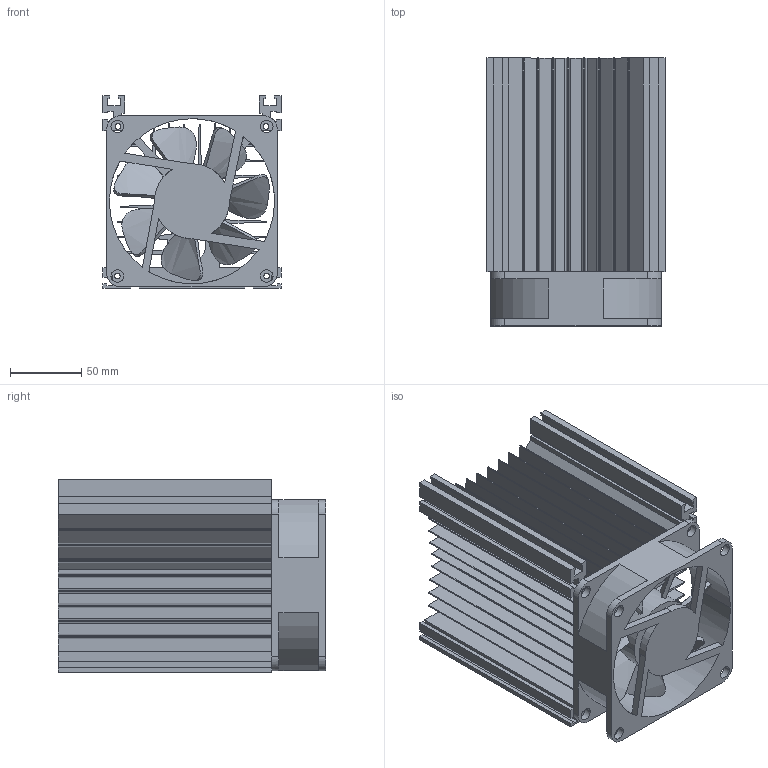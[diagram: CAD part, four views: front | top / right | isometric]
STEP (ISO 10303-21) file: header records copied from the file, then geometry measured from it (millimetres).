
FILE_DESCRIPTION (( 'STEP AP214' ), '1' );
FILE_NAME ('HS_030.STEP', '2024-04-17T12:42:40', ( '' ), ( '' ), 'SwSTEP 2.0', 'SolidWorks 2022', '' );
FILE_SCHEMA (( 'AUTOMOTIVE_DESIGN' ));
Length unit declared in the file: millimetre
Products named in the file (1): HS_030
Bounding box: 125 x 188 x 135 mm (x, y, z)
Volume: 931380.1 mm3; surface area: 449128 mm2
Topology: 1 solids, 1 shells, 399 faces, 1203 edges, 772 vertices
Faces by surface type: plane 258, cylinder 106, bspline 23, cone 12
Entity records: 26267 total; most frequent: CARTESIAN_POINT 11674, ORIENTED_EDGE 2382, DIRECTION 2173, EDGE_CURVE 1191, LINE 871, VECTOR 871, VERTEX_POINT 772, AXIS2_PLACEMENT_3D 651
